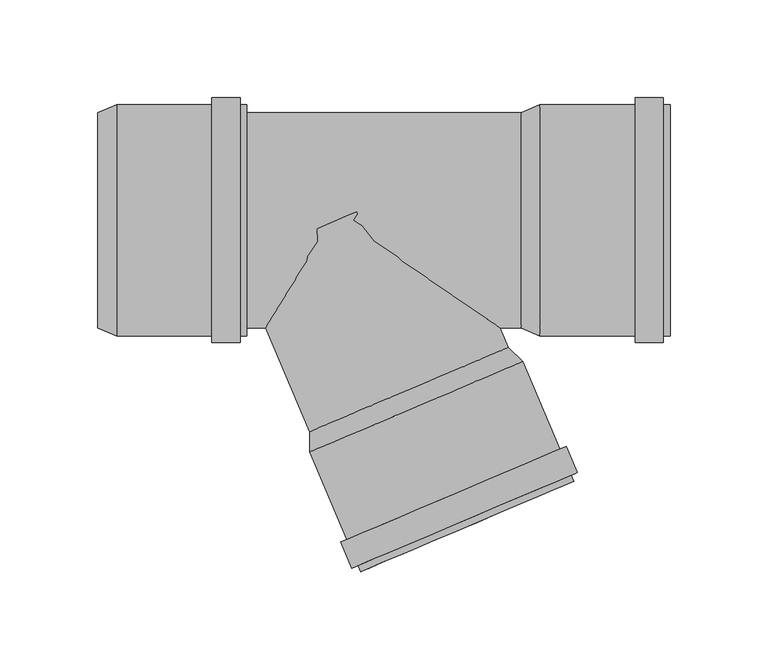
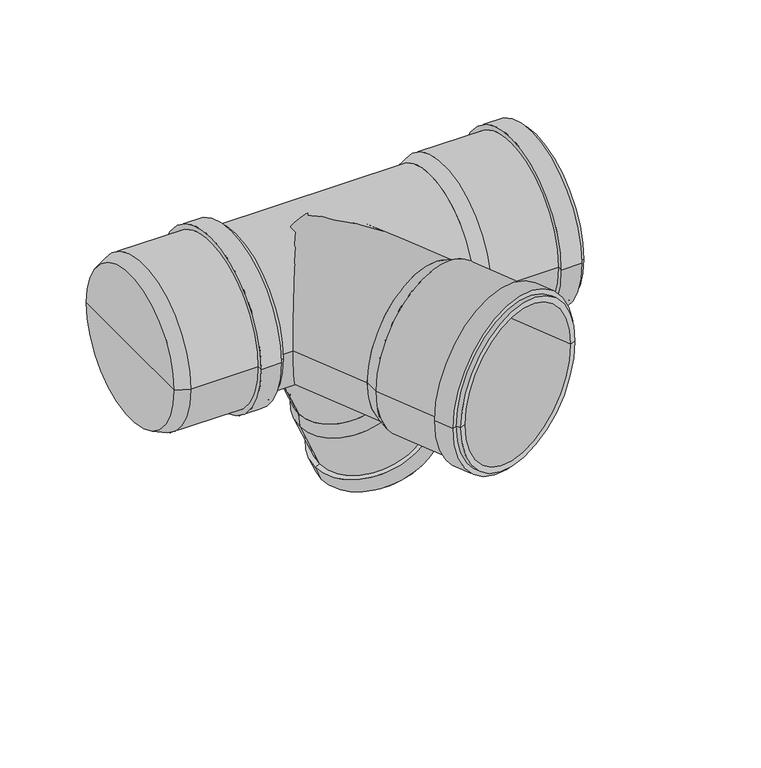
"""IFC4 building model written with IfcOpenShell, lengths in millimetres: pipe fitting geometry, pf_HTEPKp : pf_HTEPKp."""

import ifcopenshell
import ifcopenshell.guid

model = None  # the IFC model being written
_history = None  # IfcOwnerHistory: only IFC2X3 demands one
_inside = {}  # id of a spatial element -> (the spatial element, [elements in it])
_under = {}  # id of a project, library or spatial element -> (it, [spatial elements below it])
_declared = {}  # id of a project -> (the project, [libraries it declares])
_typed = {}  # id of a type object -> (the type object, [elements of that type])
_made_of = {}  # id of a material, layer set ... -> (it, [elements and type objects made of it])


def new_model(schema):
    """Start an empty IFC model of exactly this schema.

    Asked for "IFC4X3", IfcOpenShell would pick the latest addendum, in which some entities
    have other attributes; the version numbers below select the first issue.
    IFC2X3 requires an IfcOwnerHistory on every rooted entity: one is made here for all.
    """
    global model, _history
    if schema == "IFC4X3":
        model = ifcopenshell.file(schema_version=(4, 3, 0, 0))
    else:
        model = ifcopenshell.file(schema=schema)
    _inside.clear()
    _under.clear()
    _declared.clear()
    _typed.clear()
    _made_of.clear()
    _history = None
    if model.schema == "IFC2X3":
        org = make("IfcOrganization", Name="unknown")
        user = make(
            "IfcPersonAndOrganization",
            ThePerson=make("IfcPerson", FamilyName="unknown"),
            TheOrganization=org,
        )
        app = make(
            "IfcApplication",
            ApplicationDeveloper=org,
            Version="unknown",
            ApplicationFullName="unknown",
            ApplicationIdentifier="unknown",
        )
        _history = make(
            "IfcOwnerHistory",
            OwningUser=user,
            OwningApplication=app,
            ChangeAction="ADDED",
            CreationDate=0,
        )
    return model


def make(cls, **values):
    """One entity of the class cls with the attributes given. An attribute that is None is left unset."""
    return model.create_entity(
        cls, **{name: value for name, value in values.items() if value is not None}
    )


def rooted(cls, **values):
    """An entity with a GlobalId (a new one), such as an element, a storey or a relation."""
    return make(cls, GlobalId=ifcopenshell.guid.new(), OwnerHistory=_history, **values)


def si_unit(unit_type, name, prefix=None):
    """IfcSIUnit, for example si_unit("LENGTHUNIT", "METRE", prefix="MILLI")."""
    return make("IfcSIUnit", UnitType=unit_type, Prefix=prefix, Name=name)


def assignment(units):
    """IfcUnitAssignment: the units of a project."""
    return None if units is None else make("IfcUnitAssignment", Units=units)


def point(xyz):
    """IfcCartesianPoint."""
    return None if xyz is None else make("IfcCartesianPoint", Coordinates=xyz)


def direction(xyz):
    """IfcDirection."""
    return None if xyz is None else make("IfcDirection", DirectionRatios=xyz)


def frame(location, z_axis=None, x_axis=None):
    """IfcAxis2Placement3D, a coordinate frame: its origin and axes. An axis left out is left unset."""
    return make(
        "IfcAxis2Placement3D",
        Location=point(location),
        Axis=direction(z_axis),
        RefDirection=direction(x_axis),
    )


def frame_2d(location, x_axis=None):
    """IfcAxis2Placement2D, a coordinate frame in the plane: its origin and x axis."""
    return make(
        "IfcAxis2Placement2D", Location=point(location), RefDirection=direction(x_axis)
    )


def origin():
    """The frame at (0, 0, 0) with its axes left unset."""
    return frame((0.0, 0.0, 0.0))


def origin_2d():
    """The frame at (0, 0) in the plane with its x axis left unset."""
    return frame_2d((0.0, 0.0))


def place(relative_to, where):
    """IfcLocalPlacement: puts the frame where relative to a parent placement (None: the world)."""
    return make(
        "IfcLocalPlacement", PlacementRelTo=relative_to, RelativePlacement=where
    )


def context(
    kind, dimensions, precision=None, world=None, true_north=None, identifier=None
):
    """IfcGeometricRepresentationContext, for example the 3D "Model" context."""
    return make(
        "IfcGeometricRepresentationContext",
        ContextIdentifier=identifier,
        ContextType=kind,
        CoordinateSpaceDimension=dimensions,
        Precision=precision,
        WorldCoordinateSystem=world,
        TrueNorth=true_north,
    )


def project(units=None, contexts=None):
    """IfcProject with its units and contexts."""
    return rooted(
        "IfcProject",
        Name="project",
        RepresentationContexts=contexts,
        UnitsInContext=assignment(units),
    )


def spatial(cls, under=None, at=None, **own):
    """A site, building, storey or space (cls), placed at a placement, below another one or the project."""
    s = rooted(cls, ObjectPlacement=at, **own)
    if under is not None:
        _under.setdefault(under.id(), (under, []))[1].append(s)
    return s


def polyline(points):
    """IfcPolyline through the points."""
    return make("IfcPolyline", Points=[point(p) for p in points])


def circle_curve(where, radius):
    """IfcCircle in the frame where."""
    return make("IfcCircle", Position=where, Radius=radius)


def trimmed(basis, trim1, trim2, sense, master):
    """IfcTrimmedCurve: the piece of a basis curve between two trims."""
    return make(
        "IfcTrimmedCurve",
        BasisCurve=basis,
        Trim1=trim1,
        Trim2=trim2,
        SenseAgreement=sense,
        MasterRepresentation=master,
    )


def segment(curve, same_sense, transition):
    """IfcCompositeCurveSegment."""
    return make(
        "IfcCompositeCurveSegment",
        Transition=transition,
        SameSense=same_sense,
        ParentCurve=curve,
    )


def composite_curve(segments, self_intersect=None):
    """IfcCompositeCurve: segments joined end to end."""
    return make("IfcCompositeCurve", Segments=segments, SelfIntersect=self_intersect)


def outline(outer, holes=None, kind="AREA"):
    """IfcArbitraryClosedProfileDef: a profile drawn as a closed curve; with holes, ...WithVoids."""
    if holes is None:
        return make("IfcArbitraryClosedProfileDef", ProfileType=kind, OuterCurve=outer)
    return make(
        "IfcArbitraryProfileDefWithVoids",
        ProfileType=kind,
        OuterCurve=outer,
        InnerCurves=holes,
    )


def extrude(swept, where, along, depth):
    """IfcExtrudedAreaSolid: the profile swept, set in the frame where, extruded along a direction by depth."""
    return make(
        "IfcExtrudedAreaSolid",
        SweptArea=swept,
        Position=where,
        ExtrudedDirection=direction(along),
        Depth=depth,
    )


def shape(context_of_items, identifier, shape_type, items):
    """IfcShapeRepresentation: the items that make up one representation, for example the "Body"."""
    return make(
        "IfcShapeRepresentation",
        ContextOfItems=context_of_items,
        RepresentationIdentifier=identifier,
        RepresentationType=shape_type,
        Items=items,
    )


def source(mapping_origin, context_of_items, identifier, shape_type, items):
    """IfcRepresentationMap: a shape defined once, which mapped items show again and again."""
    return make(
        "IfcRepresentationMap",
        MappingOrigin=mapping_origin,
        MappedRepresentation=shape(context_of_items, identifier, shape_type, items),
    )


def transform(
    local_origin,
    x_axis=None,
    y_axis=None,
    z_axis=None,
    scale=None,
    scale2=None,
    scale3=None,
    uniform=True,
):
    """IfcCartesianTransformationOperator3D, or its non-uniform kind. x_axis, y_axis, z_axis: its Axis1, 2, 3."""
    if uniform:
        return make(
            "IfcCartesianTransformationOperator3D",
            Axis1=direction(x_axis),
            Axis2=direction(y_axis),
            LocalOrigin=point(local_origin),
            Scale=scale,
            Axis3=direction(z_axis),
        )
    return make(
        "IfcCartesianTransformationOperator3DnonUniform",
        Axis1=direction(x_axis),
        Axis2=direction(y_axis),
        LocalOrigin=point(local_origin),
        Scale=scale,
        Axis3=direction(z_axis),
        Scale2=scale2,
        Scale3=scale3,
    )


def mapped(mapping_source, mapping_target):
    """IfcMappedItem: shows the shape of a source again, moved by a transform."""
    return make(
        "IfcMappedItem", MappingSource=mapping_source, MappingTarget=mapping_target
    )


def made_of(thing, what):
    """Note that an element or type object is made of a material, layer set ...; save() writes the relation."""
    if what is not None:
        _made_of.setdefault(what.id(), (what, []))[1].append(thing)
    return thing


def element(
    cls,
    number,
    at=None,
    inside=None,
    cuts=None,
    type_object=None,
    material=None,
    context=None,
    identifier="Body",
    shape_type=None,
    held_by="IfcProductDefinitionShape",
    body=None,
    shapes=None,
    **own,
):
    """One element of the class cls, such as IfcWall. Its Tag is "e" and its number.

    at: its placement. inside: the storey or other place that contains it. cuts: it is an
    opening in that element (IfcRelVoidsElement). A single representation is given by context,
    identifier, shape_type and body (its items); several are given by shapes. held_by: the class
    of the entity that holds the representations. save() writes the other relations.
    """
    e = rooted(cls, Tag="e%d" % number, ObjectPlacement=at, **own)
    if body is not None:
        shapes = [shape(context, identifier, shape_type, body)]
    if shapes is not None:
        e.Representation = make(held_by, Representations=shapes)
    if inside is not None:
        _inside.setdefault(inside.id(), (inside, []))[1].append(e)
    if cuts is not None:
        rooted(
            "IfcRelVoidsElement", RelatingBuildingElement=cuts, RelatedOpeningElement=e
        )
    if type_object is not None:
        _typed.setdefault(type_object.id(), (type_object, []))[1].append(e)
    return made_of(e, material)


def aggregate(whole, parts):
    """IfcRelAggregates: a whole, such as a stair, and the parts it consists of."""
    return rooted("IfcRelAggregates", RelatingObject=whole, RelatedObjects=parts)


def save(model, path):
    """Write the relations noted so far, then the file.

    IfcRelAggregates (storeys below a building ...), IfcRelContainedInSpatialStructure (elements
    in a storey), IfcRelDefinesByType, IfcRelAssociatesMaterial and IfcRelDeclares: one each for
    every whole, place, type object, material and project.
    """
    for whole, parts in _under.values():
        aggregate(whole, parts)
    for where, things in _inside.values():
        rooted(
            "IfcRelContainedInSpatialStructure",
            RelatedElements=things,
            RelatingStructure=where,
        )
    for kind, things in _typed.values():
        rooted("IfcRelDefinesByType", RelatedObjects=things, RelatingType=kind)
    for what, things in _made_of.values():
        rooted("IfcRelAssociatesMaterial", RelatedObjects=things, RelatingMaterial=what)
    for by, libraries in _declared.values():
        rooted("IfcRelDeclares", RelatingContext=by, RelatedDefinitions=libraries)
    model.write(path)


def plane_surface(at):
    """IfcPlane: the flat surface through the origin of the frame at, square to its z axis."""
    return make("IfcPlane", Position=at)


def cylinder_surface(at, radius):
    """IfcCylindricalSurface: all points at the distance radius from the z axis of the frame at."""
    return make("IfcCylindricalSurface", Position=at, Radius=radius)


def revolved_surface(curve, axis_point, axis_direction):
    """IfcSurfaceOfRevolution: the curve turned about the line through axis_point along axis_direction."""
    return make(
        "IfcSurfaceOfRevolution",
        SweptCurve=make("IfcArbitraryOpenProfileDef", ProfileType="CURVE", Curve=curve),
        AxisPosition=make("IfcAxis1Placement", Location=point(axis_point), Axis=direction(axis_direction)),
    )


def advanced_brep(points, edges, surfaces, faces):
    """IfcAdvancedBrep: a solid bounded by faces that lie on surfaces and meet in shared edges.

    An edge is (start, end): straight between two places in points (the first is 0);
    or (start, end, curve); or (start, end, curve, False) where it runs against its curve.
    A face is (place in surfaces, loops), or (place, loops, False) where it looks against
    its surface's normal. A loop lists edges by number (the first is 1), with a minus sign
    where the edge is run from its end to its start. The first loop is the outer one.
    """
    corners = [point(p) for p in points]
    vertices = [make("IfcVertexPoint", VertexGeometry=c) for c in corners]
    made = []
    for start, end, *more in edges:
        made.append(
            make(
                "IfcEdgeCurve",
                EdgeStart=vertices[start],
                EdgeEnd=vertices[end],
                EdgeGeometry=more[0] if more else make("IfcPolyline", Points=[corners[start], corners[end]]),
                SameSense=more[1] if len(more) > 1 else True,
            )
        )
    hull = []
    for where, loops, *sense in faces:
        bounds = []
        for j, loop in enumerate(loops):
            ring = [make("IfcOrientedEdge", EdgeElement=made[abs(k) - 1], Orientation=k > 0) for k in loop]
            bounds.append(
                make(
                    "IfcFaceOuterBound" if j == 0 else "IfcFaceBound",
                    Bound=make("IfcEdgeLoop", EdgeList=ring),
                    Orientation=True,
                )
            )
        hull.append(make("IfcAdvancedFace", Bounds=bounds, FaceSurface=surfaces[where], SameSense=sense[0] if sense else True))
    return make("IfcAdvancedBrep", Outer=make("IfcClosedShell", CfsFaces=hull))


def pipe_fitting_428694dd(model_context):
    return source(origin(), model_context, "Body", "SolidModel", [
        advanced_brep(
        [(-1.0920807, 0.0, -93.401144), (67.9457833, 0.0, -64.0963093), (74.511294, 0.0, -71.629839), (-0.2337001, 0.0, -103.3572066), (33.4268513, 0.0, -78.7487267), (19.8889531, 0.0, -150.7632065), (94.6339472, 0.0, -119.0358389), (91.7803821, 0.0, -120.2471054), (22.7425181, 0.0, -149.55194), (18.5604672, 0.0, -147.63349), (93.3054613, 0.0, -115.9061224), (15.4307507, 0.0, -148.9619759), (96.4351778, 0.0, -114.5776366), (10.8982696, 0.0, -138.2841196), (91.9026967, 0.0, -103.8997803), (14.0279861, 0.0, -136.9556337), (88.7729802, 0.0, -105.2282661), (2.619865, 0.0, -102.1459401), (71.657729, 0.0, -72.8411055), (37.138797, 0.0, -87.4935228)],
        [
            (0, 1, circle_curve(frame((33.4268513, 0.0, -78.7487267), z_axis=(0.39073112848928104, 0.0, -0.9205048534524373), x_axis=(0.9205048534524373, 0.0, 0.39073112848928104)), 37.5)),
            (1, 2),
            (2, 3, circle_curve(frame((37.138797, 0.0, -87.4935228), z_axis=(-0.39073112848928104, 0.0, 0.9205048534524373), x_axis=(0.9205048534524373, 0.0, 0.39073112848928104)), 40.6)),
            (3, 0),
            (1, 0, circle_curve(frame((33.4268513, 0.0, -78.7487267), z_axis=(0.39073112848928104, 0.0, -0.9205048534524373), x_axis=(0.9205048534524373, 0.0, 0.39073112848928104)), 37.5)),
            (3, 2, circle_curve(frame((37.138797, 0.0, -87.4935228), z_axis=(-0.39073112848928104, 0.0, 0.9205048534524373), x_axis=(0.9205048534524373, 0.0, 0.39073112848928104)), 40.6)),
            (4, 1),
            (0, 4),
            (5, 6, circle_curve(frame((57.2614501, 0.0, -134.8995227), z_axis=(0.39073112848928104, 0.0, -0.9205048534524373), x_axis=(0.9205048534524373, 0.0, 0.39073112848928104)), 40.6)),
            (6, 7),
            (7, 8, circle_curve(frame((57.2614501, 0.0, -134.8995227), z_axis=(-0.39073112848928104, 0.0, 0.9205048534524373), x_axis=(0.9205048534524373, 0.0, 0.39073112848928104)), 37.5)),
            (8, 5),
            (6, 5, circle_curve(frame((57.2614501, 0.0, -134.8995227), z_axis=(0.39073112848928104, 0.0, -0.9205048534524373), x_axis=(0.9205048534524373, 0.0, 0.39073112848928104)), 40.6)),
            (8, 7, circle_curve(frame((57.2614501, 0.0, -134.8995227), z_axis=(-0.39073112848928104, 0.0, 0.9205048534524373), x_axis=(0.9205048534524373, 0.0, 0.39073112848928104)), 37.5)),
            (9, 10, circle_curve(frame((55.9329643, 0.0, -131.7698062), z_axis=(0.39073112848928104, 0.0, -0.9205048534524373), x_axis=(0.9205048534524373, 0.0, 0.39073112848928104)), 40.6)),
            (10, 6),
            (5, 9),
            (10, 9, circle_curve(frame((55.9329643, 0.0, -131.7698062), z_axis=(0.39073112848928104, 0.0, -0.9205048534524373), x_axis=(0.9205048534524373, 0.0, 0.39073112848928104)), 40.6)),
            (11, 12, circle_curve(frame((55.9329643, 0.0, -131.7698062), z_axis=(0.39073112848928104, 0.0, -0.9205048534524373), x_axis=(0.9205048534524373, 0.0, 0.39073112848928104)), 44.0)),
            (12, 10),
            (9, 11),
            (12, 11, circle_curve(frame((55.9329643, 0.0, -131.7698062), z_axis=(0.39073112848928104, 0.0, -0.9205048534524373), x_axis=(0.9205048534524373, 0.0, 0.39073112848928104)), 44.0)),
            (13, 14, circle_curve(frame((51.4004832, 0.0, -121.0919499), z_axis=(0.39073112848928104, 0.0, -0.9205048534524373), x_axis=(0.9205048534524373, 0.0, 0.39073112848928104)), 44.0)),
            (14, 12),
            (11, 13),
            (14, 13, circle_curve(frame((51.4004832, 0.0, -121.0919499), z_axis=(0.39073112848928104, 0.0, -0.9205048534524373), x_axis=(0.9205048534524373, 0.0, 0.39073112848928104)), 44.0)),
            (15, 16, circle_curve(frame((51.4004832, 0.0, -121.0919499), z_axis=(0.39073112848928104, 0.0, -0.9205048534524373), x_axis=(0.9205048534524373, 0.0, 0.39073112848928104)), 40.6)),
            (16, 14),
            (13, 15),
            (16, 15, circle_curve(frame((51.4004832, 0.0, -121.0919499), z_axis=(0.39073112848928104, 0.0, -0.9205048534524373), x_axis=(0.9205048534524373, 0.0, 0.39073112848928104)), 40.6)),
            (2, 16),
            (15, 3),
            (17, 18, circle_curve(frame((37.138797, 0.0, -87.4935228), z_axis=(0.39073112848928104, 0.0, -0.9205048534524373), x_axis=(0.9205048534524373, 0.0, 0.39073112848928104)), 37.5)),
            (18, 19),
            (19, 17),
            (18, 17, circle_curve(frame((37.138797, 0.0, -87.4935228), z_axis=(0.39073112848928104, 0.0, -0.9205048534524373), x_axis=(0.9205048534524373, 0.0, 0.39073112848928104)), 37.5)),
            (7, 18),
            (17, 8),
        ],
        [
            revolved_surface(polyline([(74.511294, 0.0, -71.629839), (67.9457833, 0.0, -64.0963093)]), (33.4268513, 0.0, -78.7487267), (-0.39073112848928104, 0.0, 0.9205048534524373)),
            plane_surface(frame((33.4268513, 0.0, -78.7487267), z_axis=(-0.39073112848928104, 0.0, 0.9205048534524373), x_axis=(0.9205048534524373, 0.0, 0.39073112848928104))),
            plane_surface(frame((57.2614501, 0.0, -134.8995227), z_axis=(0.39073112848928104, 0.0, -0.9205048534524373), x_axis=(0.9205048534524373, 0.0, 0.39073112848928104))),
            cylinder_surface(frame((33.4268513, 0.0, -78.7487267), z_axis=(-0.39073112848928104, 0.0, 0.9205048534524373), x_axis=(0.9205048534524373, 0.0, 0.39073112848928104)), 40.6),
            plane_surface(frame((55.9329643, 0.0, -131.7698062), z_axis=(0.39073112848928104, 0.0, -0.9205048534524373), x_axis=(0.9205048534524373, 0.0, 0.39073112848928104))),
            cylinder_surface(frame((33.4268513, 0.0, -78.7487267), z_axis=(-0.39073112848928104, 0.0, 0.9205048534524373), x_axis=(0.9205048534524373, 0.0, 0.39073112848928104)), 44.0),
            plane_surface(frame((51.4004832, 0.0, -121.0919499), z_axis=(-0.39073112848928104, 0.0, 0.9205048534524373), x_axis=(0.9205048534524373, 0.0, 0.39073112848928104))),
            plane_surface(frame((37.138797, 0.0, -87.4935228), z_axis=(0.39073112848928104, 0.0, -0.9205048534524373), x_axis=(0.9205048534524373, 0.0, 0.39073112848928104))),
            revolved_surface(polyline([(71.65772901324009, 0.0, -72.84110546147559), (91.78038212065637, 0.0, -120.24710539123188)]), (33.4268513, 0.0, -78.7487267), (-0.39073112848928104, 0.0, 0.9205048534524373)),
        ],
        [
            (0, [[1, 2, 3, 4]]),
            (0, [[5, -4, 6, -2]]),
            (1, [[7, -1, 8]]),
            (1, [[-8, -5, -7]]),
            (2, [[9, 10, 11, 12]]),
            (2, [[13, -12, 14, -10]]),
            (3, [[15, 16, -9, 17]]),
            (3, [[18, -17, -13, -16]]),
            (4, [[19, 20, -15, 21]]),
            (4, [[22, -21, -18, -20]]),
            (5, [[23, 24, -19, 25]]),
            (5, [[26, -25, -22, -24]]),
            (6, [[27, 28, -23, 29]]),
            (6, [[30, -29, -26, -28]]),
            (3, [[-3, 31, -27, 32]]),
            (3, [[-6, -32, -30, -31]]),
            (7, [[33, 34, 35]]),
            (7, [[36, -35, -34]]),
            (8, [[-11, 37, -33, 38]]),
            (8, [[-14, -38, -36, -37]]),
        ],
    ),
        advanced_brep(
        [(-13.8599677, -108.1097188, 0.0), (87.3955661, -65.1292946, 0.0), (94.8815818, -72.2720931, 0.0), (-13.9220919, -118.4565125, 0.0), (36.7677992, -86.6195067, 0.0), (12.0615281, -179.6700853, 0.0), (120.8652018, -133.4856659, 0.0), (117.0911319, -135.0876635, 0.0), (15.835598, -178.0680876, 0.0), (10.7330423, -176.5403688, 0.0), (119.536716, -130.3559494, 0.0), (7.6033258, -177.8688546, 0.0), (122.6664325, -129.0274635, 0.0), (1.9377244, -164.5215342, 0.0), (117.0008311, -115.6801432, 0.0), (5.0674409, -163.1930484, 0.0), (113.8711146, -117.008629, 0.0), (-10.148022, -116.8545149, 0.0), (91.1075119, -73.8740908, 0.0), (40.4797449, -95.3643028, 0.0)],
        [
            (0, 1, circle_curve(frame((36.7677992, -86.6195067, 0.0), z_axis=(0.3907311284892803, -0.9205048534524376, 0.0), x_axis=(0.9205048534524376, 0.3907311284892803, 0.0)), 55.0)),
            (1, 2),
            (2, 3, circle_curve(frame((40.4797449, -95.3643028, 0.0), z_axis=(-0.3907311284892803, 0.9205048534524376, 0.0), x_axis=(0.9205048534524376, 0.3907311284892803, 0.0)), 59.1)),
            (3, 0),
            (1, 0, circle_curve(frame((36.7677992, -86.6195067, 0.0), z_axis=(0.3907311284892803, -0.9205048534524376, 0.0), x_axis=(0.9205048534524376, 0.3907311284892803, 0.0)), 55.0)),
            (3, 2, circle_curve(frame((40.4797449, -95.3643028, 0.0), z_axis=(-0.3907311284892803, 0.9205048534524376, 0.0), x_axis=(0.9205048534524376, 0.3907311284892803, 0.0)), 59.1)),
            (4, 1),
            (0, 4),
            (5, 6, circle_curve(frame((66.463365, -156.5778756, 0.0), z_axis=(0.3907311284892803, -0.9205048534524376, 0.0), x_axis=(0.9205048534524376, 0.3907311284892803, 0.0)), 59.1)),
            (6, 7),
            (7, 8, circle_curve(frame((66.463365, -156.5778756, 0.0), z_axis=(-0.3907311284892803, 0.9205048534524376, 0.0), x_axis=(0.9205048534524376, 0.3907311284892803, 0.0)), 55.0)),
            (8, 5),
            (6, 5, circle_curve(frame((66.463365, -156.5778756, 0.0), z_axis=(0.3907311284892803, -0.9205048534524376, 0.0), x_axis=(0.9205048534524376, 0.3907311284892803, 0.0)), 59.1)),
            (8, 7, circle_curve(frame((66.463365, -156.5778756, 0.0), z_axis=(-0.3907311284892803, 0.9205048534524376, 0.0), x_axis=(0.9205048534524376, 0.3907311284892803, 0.0)), 55.0)),
            (9, 10, circle_curve(frame((65.1348791, -153.4481591, 0.0), z_axis=(0.3907311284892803, -0.9205048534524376, 0.0), x_axis=(0.9205048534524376, 0.3907311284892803, 0.0)), 59.1)),
            (10, 6),
            (5, 9),
            (10, 9, circle_curve(frame((65.1348791, -153.4481591, 0.0), z_axis=(0.3907311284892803, -0.9205048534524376, 0.0), x_axis=(0.9205048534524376, 0.3907311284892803, 0.0)), 59.1)),
            (11, 12, circle_curve(frame((65.1348791, -153.4481591, 0.0), z_axis=(0.3907311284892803, -0.9205048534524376, 0.0), x_axis=(0.9205048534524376, 0.3907311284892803, 0.0)), 62.5)),
            (12, 10),
            (9, 11),
            (12, 11, circle_curve(frame((65.1348791, -153.4481591, 0.0), z_axis=(0.3907311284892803, -0.9205048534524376, 0.0), x_axis=(0.9205048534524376, 0.3907311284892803, 0.0)), 62.5)),
            (13, 14, circle_curve(frame((59.4692778, -140.1008387, 0.0), z_axis=(0.3907311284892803, -0.9205048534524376, 0.0), x_axis=(0.9205048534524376, 0.3907311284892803, 0.0)), 62.5)),
            (14, 12),
            (11, 13),
            (14, 13, circle_curve(frame((59.4692778, -140.1008387, 0.0), z_axis=(0.3907311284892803, -0.9205048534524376, 0.0), x_axis=(0.9205048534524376, 0.3907311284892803, 0.0)), 62.5)),
            (15, 16, circle_curve(frame((59.4692778, -140.1008387, 0.0), z_axis=(0.3907311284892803, -0.9205048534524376, 0.0), x_axis=(0.9205048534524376, 0.3907311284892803, 0.0)), 59.1)),
            (16, 14),
            (13, 15),
            (16, 15, circle_curve(frame((59.4692778, -140.1008387, 0.0), z_axis=(0.3907311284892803, -0.9205048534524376, 0.0), x_axis=(0.9205048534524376, 0.3907311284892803, 0.0)), 59.1)),
            (2, 16),
            (15, 3),
            (17, 18, circle_curve(frame((40.4797449, -95.3643028, 0.0), z_axis=(0.3907311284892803, -0.9205048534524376, 0.0), x_axis=(0.9205048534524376, 0.3907311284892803, 0.0)), 55.0)),
            (18, 19),
            (19, 17),
            (18, 17, circle_curve(frame((40.4797449, -95.3643028, 0.0), z_axis=(0.3907311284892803, -0.9205048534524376, 0.0), x_axis=(0.9205048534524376, 0.3907311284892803, 0.0)), 55.0)),
            (7, 18),
            (17, 8),
        ],
        [
            revolved_surface(polyline([(94.8815818, -72.2720931, 0.0), (87.3955661, -65.1292946, 0.0)]), (36.7677992, -86.6195067, 0.0), (-0.3907311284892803, 0.9205048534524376, 0.0)),
            plane_surface(frame((36.7677992, -86.6195067, 0.0), z_axis=(-0.3907311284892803, 0.9205048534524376, 0.0), x_axis=(0.9205048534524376, 0.3907311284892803, 0.0))),
            plane_surface(frame((66.463365, -156.5778756, 0.0), z_axis=(0.3907311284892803, -0.9205048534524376, 0.0), x_axis=(0.9205048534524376, 0.3907311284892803, 0.0))),
            cylinder_surface(frame((36.7677992, -86.6195067, 0.0), z_axis=(-0.3907311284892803, 0.9205048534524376, 0.0), x_axis=(0.9205048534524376, 0.3907311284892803, 0.0)), 59.1),
            plane_surface(frame((65.1348791, -153.4481591, 0.0), z_axis=(0.3907311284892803, -0.9205048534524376, 0.0), x_axis=(0.9205048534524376, 0.3907311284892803, 0.0))),
            cylinder_surface(frame((36.7677992, -86.6195067, 0.0), z_axis=(-0.3907311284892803, 0.9205048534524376, 0.0), x_axis=(0.9205048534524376, 0.3907311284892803, 0.0)), 62.5),
            plane_surface(frame((59.4692778, -140.1008387, 0.0), z_axis=(-0.3907311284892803, 0.9205048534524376, 0.0), x_axis=(0.9205048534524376, 0.3907311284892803, 0.0))),
            plane_surface(frame((40.4797449, -95.3643028, 0.0), z_axis=(0.3907311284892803, -0.9205048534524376, 0.0), x_axis=(0.9205048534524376, 0.3907311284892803, 0.0))),
            revolved_surface(polyline([(91.1075118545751, -73.87409072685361, 0.0), (117.09113192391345, -135.08766353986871, 0.0)]), (36.7677992, -86.6195067, 0.0), (-0.3907311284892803, 0.9205048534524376, 0.0)),
        ],
        [
            (0, [[1, 2, 3, 4]]),
            (0, [[5, -4, 6, -2]]),
            (1, [[7, -1, 8]]),
            (1, [[-8, -5, -7]]),
            (2, [[9, 10, 11, 12]]),
            (2, [[13, -12, 14, -10]]),
            (3, [[15, 16, -9, 17]]),
            (3, [[18, -17, -13, -16]]),
            (4, [[19, 20, -15, 21]]),
            (4, [[22, -21, -18, -20]]),
            (5, [[23, 24, -19, 25]]),
            (5, [[26, -25, -22, -24]]),
            (6, [[27, 28, -23, 29]]),
            (6, [[30, -29, -26, -28]]),
            (3, [[-3, 31, -27, 32]]),
            (3, [[-6, -32, -30, -31]]),
            (7, [[33, 34, 35]]),
            (7, [[36, -35, -34]]),
            (8, [[-11, 37, -33, 38]]),
            (8, [[-14, -38, -36, -37]]),
        ],
    ),
        advanced_brep(
        [(94.1, -55.0, 0.0), (94.1, 55.0, 0.0), (103.6, 59.1, 0.0), (103.6, -59.1, 0.0), (94.1, 0.0, 0.0), (170.1, -59.1, 0.0), (170.1, 59.1, 0.0), (170.1, 55.0, 0.0), (170.1, -55.0, 0.0), (166.7, -59.1, 0.0), (166.7, 59.1, 0.0), (166.7, -62.5, 0.0), (166.7, 62.5, 0.0), (152.2, -62.5, 0.0), (152.2, 62.5, 0.0), (152.2, -59.1, 0.0), (152.2, 59.1, 0.0), (103.6, -55.0, 0.0), (103.6, 55.0, 0.0), (103.6, 0.0, 0.0)],
        [
            (0, 1, circle_curve(frame((94.1, 0.0, 0.0), z_axis=(1.0, 0.0, 0.0), x_axis=(0.0, 1.0, 0.0)), 55.0)),
            (1, 2),
            (2, 3, circle_curve(frame((103.6, 0.0, 0.0), z_axis=(-1.0, 0.0, 0.0), x_axis=(0.0, 1.0, 0.0)), 59.1)),
            (3, 0),
            (1, 0, circle_curve(frame((94.1, 0.0, 0.0), z_axis=(1.0, 0.0, 0.0), x_axis=(0.0, 1.0, 0.0)), 55.0)),
            (3, 2, circle_curve(frame((103.6, 0.0, 0.0), z_axis=(-1.0, 0.0, 0.0), x_axis=(0.0, 1.0, 0.0)), 59.1)),
            (4, 1),
            (0, 4),
            (5, 6, circle_curve(frame((170.1, 0.0, 0.0), z_axis=(1.0, 0.0, 0.0), x_axis=(0.0, 1.0, 0.0)), 59.1)),
            (6, 7),
            (7, 8, circle_curve(frame((170.1, 0.0, 0.0), z_axis=(-1.0, 0.0, 0.0), x_axis=(0.0, 1.0, 0.0)), 55.0)),
            (8, 5),
            (6, 5, circle_curve(frame((170.1, 0.0, 0.0), z_axis=(1.0, 0.0, 0.0), x_axis=(0.0, 1.0, 0.0)), 59.1)),
            (8, 7, circle_curve(frame((170.1, 0.0, 0.0), z_axis=(-1.0, 0.0, 0.0), x_axis=(0.0, 1.0, 0.0)), 55.0)),
            (9, 10, circle_curve(frame((166.7, 0.0, 0.0), z_axis=(1.0, 0.0, 0.0), x_axis=(0.0, 1.0, 0.0)), 59.1)),
            (10, 6),
            (5, 9),
            (10, 9, circle_curve(frame((166.7, 0.0, 0.0), z_axis=(1.0, 0.0, 0.0), x_axis=(0.0, 1.0, 0.0)), 59.1)),
            (11, 12, circle_curve(frame((166.7, 0.0, 0.0), z_axis=(1.0, 0.0, 0.0), x_axis=(0.0, 1.0, 0.0)), 62.5)),
            (12, 10),
            (9, 11),
            (12, 11, circle_curve(frame((166.7, 0.0, 0.0), z_axis=(1.0, 0.0, 0.0), x_axis=(0.0, 1.0, 0.0)), 62.5)),
            (13, 14, circle_curve(frame((152.2, 0.0, 0.0), z_axis=(1.0, 0.0, 0.0), x_axis=(0.0, 1.0, 0.0)), 62.5)),
            (14, 12),
            (11, 13),
            (14, 13, circle_curve(frame((152.2, 0.0, 0.0), z_axis=(1.0, 0.0, 0.0), x_axis=(0.0, 1.0, 0.0)), 62.5)),
            (15, 16, circle_curve(frame((152.2, 0.0, 0.0), z_axis=(1.0, 0.0, 0.0), x_axis=(0.0, 1.0, 0.0)), 59.1)),
            (16, 14),
            (13, 15),
            (16, 15, circle_curve(frame((152.2, 0.0, 0.0), z_axis=(1.0, 0.0, 0.0), x_axis=(0.0, 1.0, 0.0)), 59.1)),
            (2, 16),
            (15, 3),
            (17, 18, circle_curve(frame((103.6, 0.0, 0.0), z_axis=(1.0, 0.0, 0.0), x_axis=(0.0, 1.0, 0.0)), 55.0)),
            (18, 19),
            (19, 17),
            (18, 17, circle_curve(frame((103.6, 0.0, 0.0), z_axis=(1.0, 0.0, 0.0), x_axis=(0.0, 1.0, 0.0)), 55.0)),
            (7, 18),
            (17, 8),
        ],
        [
            revolved_surface(polyline([(103.6, 59.1, 0.0), (94.1, 55.0, 0.0)]), (94.1, 0.0, 0.0), (-1.0, 0.0, 0.0)),
            plane_surface(frame((94.1, 0.0, 0.0), z_axis=(-1.0, 0.0, 0.0), x_axis=(0.0, 1.0, 0.0))),
            plane_surface(frame((170.1, 0.0, 0.0), z_axis=(1.0, 0.0, 0.0), x_axis=(0.0, 1.0, 0.0))),
            cylinder_surface(frame((94.1, 0.0, 0.0), z_axis=(-1.0, 0.0, 0.0), x_axis=(0.0, 1.0, 0.0)), 59.1),
            plane_surface(frame((166.7, 0.0, 0.0), z_axis=(1.0, 0.0, 0.0), x_axis=(0.0, 1.0, 0.0))),
            cylinder_surface(frame((94.1, 0.0, 0.0), z_axis=(-1.0, 0.0, 0.0), x_axis=(0.0, 1.0, 0.0)), 62.5),
            plane_surface(frame((152.2, 0.0, 0.0), z_axis=(-1.0, 0.0, 0.0), x_axis=(0.0, 1.0, 0.0))),
            plane_surface(frame((103.6, 0.0, 0.0), z_axis=(1.0, 0.0, 0.0), x_axis=(0.0, 1.0, 0.0))),
            revolved_surface(polyline([(103.6, 55.0, 0.0), (170.1, 55.0, 0.0)]), (94.1, 0.0, 0.0), (-1.0, 0.0, 0.0)),
        ],
        [
            (0, [[1, 2, 3, 4]]),
            (0, [[5, -4, 6, -2]]),
            (1, [[7, -1, 8]]),
            (1, [[-8, -5, -7]]),
            (2, [[9, 10, 11, 12]]),
            (2, [[13, -12, 14, -10]]),
            (3, [[15, 16, -9, 17]]),
            (3, [[18, -17, -13, -16]]),
            (4, [[19, 20, -15, 21]]),
            (4, [[22, -21, -18, -20]]),
            (5, [[23, 24, -19, 25]]),
            (5, [[26, -25, -22, -24]]),
            (6, [[27, 28, -23, 29]]),
            (6, [[30, -29, -26, -28]]),
            (3, [[-3, 31, -27, 32]]),
            (3, [[-6, -32, -30, -31]]),
            (7, [[33, 34, 35]]),
            (7, [[36, -35, -34]]),
            (8, [[-11, 37, -33, 38]]),
            (8, [[-14, -38, -36, -37]]),
        ],
    ),
        advanced_brep(
        [(-122.1, -55.0, 0.0), (-122.1, 55.0, 0.0), (-112.6, 59.1, 0.0), (-112.6, -59.1, 0.0), (-122.1, 0.0, 0.0), (-46.1, -59.1, 0.0), (-46.1, 59.1, 0.0), (-46.1, 55.0, 0.0), (-46.1, -55.0, 0.0), (-49.5, -59.1, 0.0), (-49.5, 59.1, 0.0), (-49.5, -62.5, 0.0), (-49.5, 62.5, 0.0), (-64.0, -62.5, 0.0), (-64.0, 62.5, 0.0), (-64.0, -59.1, 0.0), (-64.0, 59.1, 0.0), (-112.6, -55.0, 0.0), (-112.6, 55.0, 0.0), (-112.6, 0.0, 0.0)],
        [
            (0, 1, circle_curve(frame((-122.1, 0.0, 0.0), z_axis=(1.0, 0.0, 0.0), x_axis=(0.0, 1.0, 0.0)), 55.0)),
            (1, 2),
            (2, 3, circle_curve(frame((-112.6, 0.0, 0.0), z_axis=(-1.0, 0.0, 0.0), x_axis=(0.0, 1.0, 0.0)), 59.1)),
            (3, 0),
            (1, 0, circle_curve(frame((-122.1, 0.0, 0.0), z_axis=(1.0, 0.0, 0.0), x_axis=(0.0, 1.0, 0.0)), 55.0)),
            (3, 2, circle_curve(frame((-112.6, 0.0, 0.0), z_axis=(-1.0, 0.0, 0.0), x_axis=(0.0, 1.0, 0.0)), 59.1)),
            (4, 1),
            (0, 4),
            (5, 6, circle_curve(frame((-46.1, 0.0, 0.0), z_axis=(1.0, 0.0, 0.0), x_axis=(0.0, 1.0, 0.0)), 59.1)),
            (6, 7),
            (7, 8, circle_curve(frame((-46.1, 0.0, 0.0), z_axis=(-1.0, 0.0, 0.0), x_axis=(0.0, 1.0, 0.0)), 55.0)),
            (8, 5),
            (6, 5, circle_curve(frame((-46.1, 0.0, 0.0), z_axis=(1.0, 0.0, 0.0), x_axis=(0.0, 1.0, 0.0)), 59.1)),
            (8, 7, circle_curve(frame((-46.1, 0.0, 0.0), z_axis=(-1.0, 0.0, 0.0), x_axis=(0.0, 1.0, 0.0)), 55.0)),
            (9, 10, circle_curve(frame((-49.5, 0.0, 0.0), z_axis=(1.0, 0.0, 0.0), x_axis=(0.0, 1.0, 0.0)), 59.1)),
            (10, 6),
            (5, 9),
            (10, 9, circle_curve(frame((-49.5, 0.0, 0.0), z_axis=(1.0, 0.0, 0.0), x_axis=(0.0, 1.0, 0.0)), 59.1)),
            (11, 12, circle_curve(frame((-49.5, 0.0, 0.0), z_axis=(1.0, 0.0, 0.0), x_axis=(0.0, 1.0, 0.0)), 62.5)),
            (12, 10),
            (9, 11),
            (12, 11, circle_curve(frame((-49.5, 0.0, 0.0), z_axis=(1.0, 0.0, 0.0), x_axis=(0.0, 1.0, 0.0)), 62.5)),
            (13, 14, circle_curve(frame((-64.0, 0.0, 0.0), z_axis=(1.0, 0.0, 0.0), x_axis=(0.0, 1.0, 0.0)), 62.5)),
            (14, 12),
            (11, 13),
            (14, 13, circle_curve(frame((-64.0, 0.0, 0.0), z_axis=(1.0, 0.0, 0.0), x_axis=(0.0, 1.0, 0.0)), 62.5)),
            (15, 16, circle_curve(frame((-64.0, 0.0, 0.0), z_axis=(1.0, 0.0, 0.0), x_axis=(0.0, 1.0, 0.0)), 59.1)),
            (16, 14),
            (13, 15),
            (16, 15, circle_curve(frame((-64.0, 0.0, 0.0), z_axis=(1.0, 0.0, 0.0), x_axis=(0.0, 1.0, 0.0)), 59.1)),
            (2, 16),
            (15, 3),
            (17, 18, circle_curve(frame((-112.6, 0.0, 0.0), z_axis=(1.0, 0.0, 0.0), x_axis=(0.0, 1.0, 0.0)), 55.0)),
            (18, 19),
            (19, 17),
            (18, 17, circle_curve(frame((-112.6, 0.0, 0.0), z_axis=(1.0, 0.0, 0.0), x_axis=(0.0, 1.0, 0.0)), 55.0)),
            (7, 18),
            (17, 8),
        ],
        [
            revolved_surface(polyline([(-112.6, 59.1, 0.0), (-122.1, 55.0, 0.0)]), (-122.1, 0.0, 0.0), (-1.0, 0.0, 0.0)),
            plane_surface(frame((-122.1, 0.0, 0.0), z_axis=(-1.0, 0.0, 0.0), x_axis=(0.0, 1.0, 0.0))),
            plane_surface(frame((-46.1, 0.0, 0.0), z_axis=(1.0, 0.0, 0.0), x_axis=(0.0, 1.0, 0.0))),
            cylinder_surface(frame((-122.1, 0.0, 0.0), z_axis=(-1.0, 0.0, 0.0), x_axis=(0.0, 1.0, 0.0)), 59.1),
            plane_surface(frame((-49.5, 0.0, 0.0), z_axis=(1.0, 0.0, 0.0), x_axis=(0.0, 1.0, 0.0))),
            cylinder_surface(frame((-122.1, 0.0, 0.0), z_axis=(-1.0, 0.0, 0.0), x_axis=(0.0, 1.0, 0.0)), 62.5),
            plane_surface(frame((-64.0, 0.0, 0.0), z_axis=(-1.0, 0.0, 0.0), x_axis=(0.0, 1.0, 0.0))),
            plane_surface(frame((-112.6, 0.0, 0.0), z_axis=(1.0, 0.0, 0.0), x_axis=(0.0, 1.0, 0.0))),
            revolved_surface(polyline([(-112.6, 55.0, 0.0), (-46.099999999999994, 55.0, 0.0)]), (-122.1, 0.0, 0.0), (-1.0, 0.0, 0.0)),
        ],
        [
            (0, [[1, 2, 3, 4]]),
            (0, [[5, -4, 6, -2]]),
            (1, [[7, -1, 8]]),
            (1, [[-8, -5, -7]]),
            (2, [[9, 10, 11, 12]]),
            (2, [[13, -12, 14, -10]]),
            (3, [[15, 16, -9, 17]]),
            (3, [[18, -17, -13, -16]]),
            (4, [[19, 20, -15, 21]]),
            (4, [[22, -21, -18, -20]]),
            (5, [[23, 24, -19, 25]]),
            (5, [[26, -25, -22, -24]]),
            (6, [[27, 28, -23, 29]]),
            (6, [[30, -29, -26, -28]]),
            (3, [[-3, 31, -27, 32]]),
            (3, [[-6, -32, -30, -31]]),
            (7, [[33, 34, 35]]),
            (7, [[36, -35, -34]]),
            (8, [[-11, 37, -33, 38]]),
            (8, [[-14, -38, -36, -37]]),
        ],
    ),
        extrude(outline(composite_curve([segment(trimmed(circle_curve(origin_2d(), 37.5), [point((0.0, -37.5))], [point((0.0, 37.5))], False, "CARTESIAN"), True, "CONTINUOUS"), segment(trimmed(circle_curve(origin_2d(), 37.5), [point((0.0, 37.5))], [point((0.0, -37.5))], False, "CARTESIAN"), True, "CONTINUOUS")], self_intersect=False)), frame((36.7677992, 0.0, -86.6195067), z_axis=(-0.3907311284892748, 0.0, 0.9205048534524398), x_axis=(0.0, -1.0, 0.0)), (0.0, 0.0, 1.0), 94.1),
        extrude(outline(composite_curve([segment(trimmed(circle_curve(origin_2d(), 55.0), [point((0.0, -55.0))], [point((0.0, 55.0))], False, "CARTESIAN"), True, "CONTINUOUS"), segment(trimmed(circle_curve(origin_2d(), 55.0), [point((0.0, 55.0))], [point((0.0, -55.0))], False, "CARTESIAN"), True, "CONTINUOUS")], self_intersect=False)), frame((36.7677992, -86.6195067, 0.0), z_axis=(-0.39073112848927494, 0.9205048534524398, 0.0), x_axis=(0.0, 0.0, 1.0)), (0.0, 0.0, 1.0), 94.1),
        extrude(outline(composite_curve([segment(trimmed(circle_curve(origin_2d(), 55.0), [point((-55.0, 0.0))], [point((55.0, 0.0))], False, "CARTESIAN"), True, "CONTINUOUS"), segment(trimmed(circle_curve(origin_2d(), 55.0), [point((55.0, 0.0))], [point((-55.0, 0.0))], False, "CARTESIAN"), True, "CONTINUOUS")], self_intersect=False)), frame((-46.1, 0.0, 0.0), z_axis=(1.0, 0.0, 0.0), x_axis=(0.0, 1.0, 0.0)), (0.0, 0.0, 1.0), 140.2),
    ])


if __name__ == "__main__":
    model = new_model("IFC4")
    model_context = context("Model", 3, world=origin())
    ifc_project = project(units=[si_unit("LENGTHUNIT", "METRE", prefix="MILLI")], contexts=[model_context])
    site = spatial("IfcSite", under=ifc_project)
    building = spatial("IfcBuilding", under=site)
    placement = place(None, origin())
    pipe_fitting_shape = pipe_fitting_428694dd(model_context)
    element("IfcPipeFitting", 1, ObjectType="pf_HTEPKp : pf_HTEPKp", at=placement, inside=building, context=model_context, shape_type="MappedRepresentation", body=[
        mapped(pipe_fitting_shape, transform((0.0, 0.0, 0.0), x_axis=(1.0, 0.0, 0.0), y_axis=(0.0, 1.0, 0.0), z_axis=(0.0, 0.0, 1.0))),
    ])
    save(model, "model.ifc")
